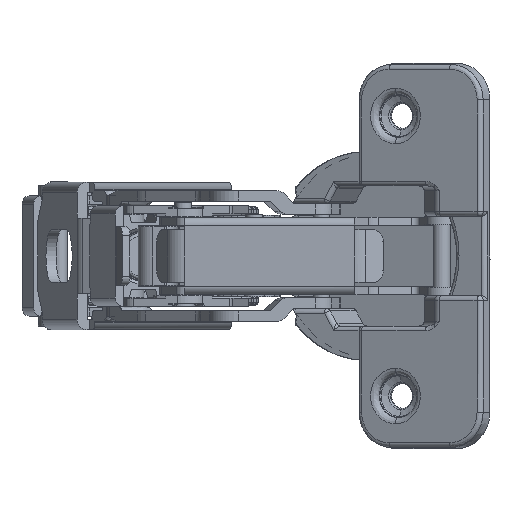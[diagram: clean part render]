
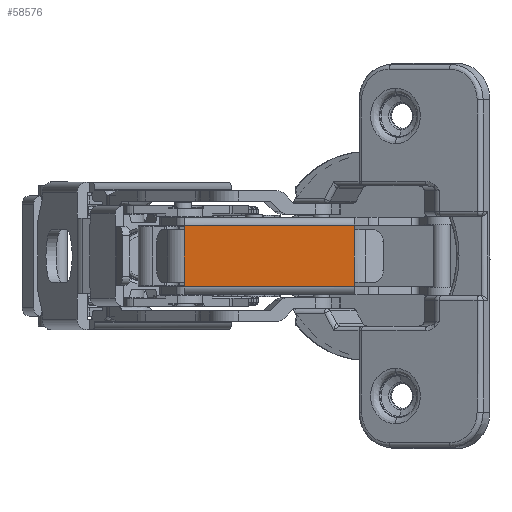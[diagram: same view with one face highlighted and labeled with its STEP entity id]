
A CAD part, left-side view. The second image highlights one B-rep face of the part: STEP entity #58576.
In plain terms, the highlighted planar face has unit normal (-0.998, 0.066, 0).
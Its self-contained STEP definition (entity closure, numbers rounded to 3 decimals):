
#945 = CARTESIAN_POINT ( 'NONE',  ( -60.622, -5.756, -5.25 ) ) ;
#1553 = CARTESIAN_POINT ( 'NONE',  ( -60.622, -5.756, -5.25 ) ) ;
#1762 = LINE ( 'NONE', #92393, #40353 ) ;
#1820 = ORIENTED_EDGE ( 'NONE', *, *, #15585, .F. ) ;
#2670 = EDGE_CURVE ( 'NONE', #90705, #84511, #78315, .T. ) ;
#5531 = LINE ( 'NONE', #61175, #29994 ) ;
#6243 = LINE ( 'NONE', #22483, #51610 ) ;
#6812 = CARTESIAN_POINT ( 'NONE',  ( -62.548, -34.957, -4.5 ) ) ;
#7302 = CARTESIAN_POINT ( 'NONE',  ( -62.548, -34.957, -5.25 ) ) ;
#7560 = ORIENTED_EDGE ( 'NONE', *, *, #14237, .T. ) ;
#11730 = AXIS2_PLACEMENT_3D ( 'NONE', #945, #42509, #99656 ) ;
#11980 = VERTEX_POINT ( 'NONE', #39629 ) ;
#12443 = VECTOR ( 'NONE', #93373, 1000. ) ;
#12493 = CARTESIAN_POINT ( 'NONE',  ( -62.548, -34.957, -5.25 ) ) ;
#14237 = EDGE_CURVE ( 'NONE', #18324, #52695, #57510, .T. ) ;
#14546 = CARTESIAN_POINT ( 'NONE',  ( -62.548, -34.957, 5.25 ) ) ;
#15585 = EDGE_CURVE ( 'NONE', #19756, #38911, #1762, .T. ) ;
#17205 = PLANE ( 'NONE',  #11730 ) ;
#18324 = VERTEX_POINT ( 'NONE', #60264 ) ;
#19756 = VERTEX_POINT ( 'NONE', #6812 ) ;
#20006 = CARTESIAN_POINT ( 'NONE',  ( -60.622, -5.756, -5.25 ) ) ;
#22483 = CARTESIAN_POINT ( 'NONE',  ( -62.548, -34.957, -5.25 ) ) ;
#22562 = LINE ( 'NONE', #56043, #78211 ) ;
#25624 = ORIENTED_EDGE ( 'NONE', *, *, #39305, .T. ) ;
#27010 = LINE ( 'NONE', #51961, #75288 ) ;
#29477 = DIRECTION ( 'NONE',  ( 0., 0., 1. ) ) ;
#29994 = VECTOR ( 'NONE', #70887, 1000. ) ;
#32533 = EDGE_CURVE ( 'NONE', #70179, #84511, #27010, .T. ) ;
#36766 = CARTESIAN_POINT ( 'NONE',  ( -60.622, -5.756, -5.25 ) ) ;
#37873 = EDGE_LOOP ( 'NONE', ( #69071, #54095, #68204, #25624, #1820, #80877, #7560, #96851 ) ) ;
#38911 = VERTEX_POINT ( 'NONE', #12493 ) ;
#39305 = EDGE_CURVE ( 'NONE', #70179, #38911, #75019, .T. ) ;
#39629 = CARTESIAN_POINT ( 'NONE',  ( -60.622, -5.756, 5.25 ) ) ;
#40353 = VECTOR ( 'NONE', #67649, 1000. ) ;
#42509 = DIRECTION ( 'NONE',  ( -0.998, 0.066, 0. ) ) ;
#45145 = EDGE_CURVE ( 'NONE', #19756, #18324, #6243, .T. ) ;
#51610 = VECTOR ( 'NONE', #29477, 1000. ) ;
#51961 = CARTESIAN_POINT ( 'NONE',  ( -60.622, -5.756, -6.65 ) ) ;
#52695 = VERTEX_POINT ( 'NONE', #14546 ) ;
#54095 = ORIENTED_EDGE ( 'NONE', *, *, #2670, .T. ) ;
#56043 = CARTESIAN_POINT ( 'NONE',  ( -60.622, -5.756, -5.25 ) ) ;
#57510 = LINE ( 'NONE', #7302, #95832 ) ;
#58576 = ADVANCED_FACE ( 'NONE', ( #74936 ), #17205, .T. ) ;
#60264 = CARTESIAN_POINT ( 'NONE',  ( -62.548, -34.957, 4.5 ) ) ;
#61175 = CARTESIAN_POINT ( 'NONE',  ( -62.548, -34.957, 5.25 ) ) ;
#64679 = EDGE_CURVE ( 'NONE', #11980, #90705, #22562, .T. ) ;
#65294 = VECTOR ( 'NONE', #92740, 1000. ) ;
#67649 = DIRECTION ( 'NONE',  ( 0., 0., -1. ) ) ;
#68204 = ORIENTED_EDGE ( 'NONE', *, *, #32533, .F. ) ;
#68659 = EDGE_CURVE ( 'NONE', #11980, #52695, #5531, .T. ) ;
#69071 = ORIENTED_EDGE ( 'NONE', *, *, #64679, .T. ) ;
#70179 = VERTEX_POINT ( 'NONE', #36766 ) ;
#70186 = DIRECTION ( 'NONE',  ( 0., 0., 1. ) ) ;
#70887 = DIRECTION ( 'NONE',  ( -0.066, -0.998, 0. ) ) ;
#74936 = FACE_OUTER_BOUND ( 'NONE', #37873, .T. ) ;
#75019 = LINE ( 'NONE', #1553, #65294 ) ;
#75288 = VECTOR ( 'NONE', #70186, 1000. ) ;
#78211 = VECTOR ( 'NONE', #90440, 1000. ) ;
#78315 = LINE ( 'NONE', #20006, #12443 ) ;
#80877 = ORIENTED_EDGE ( 'NONE', *, *, #45145, .T. ) ;
#84511 = VERTEX_POINT ( 'NONE', #87401 ) ;
#85424 = CARTESIAN_POINT ( 'NONE',  ( -60.622, -5.756, 4.5 ) ) ;
#87401 = CARTESIAN_POINT ( 'NONE',  ( -60.622, -5.756, -4.5 ) ) ;
#90440 = DIRECTION ( 'NONE',  ( 0., 0., -1. ) ) ;
#90705 = VERTEX_POINT ( 'NONE', #85424 ) ;
#92393 = CARTESIAN_POINT ( 'NONE',  ( -62.548, -34.957, -6.663 ) ) ;
#92740 = DIRECTION ( 'NONE',  ( -0.066, -0.998, 0. ) ) ;
#93373 = DIRECTION ( 'NONE',  ( 0., 0., -1. ) ) ;
#95832 = VECTOR ( 'NONE', #98945, 1000. ) ;
#96851 = ORIENTED_EDGE ( 'NONE', *, *, #68659, .F. ) ;
#98945 = DIRECTION ( 'NONE',  ( 0., 0., 1. ) ) ;
#99656 = DIRECTION ( 'NONE',  ( -0.066, -0.998, 0. ) ) ;
